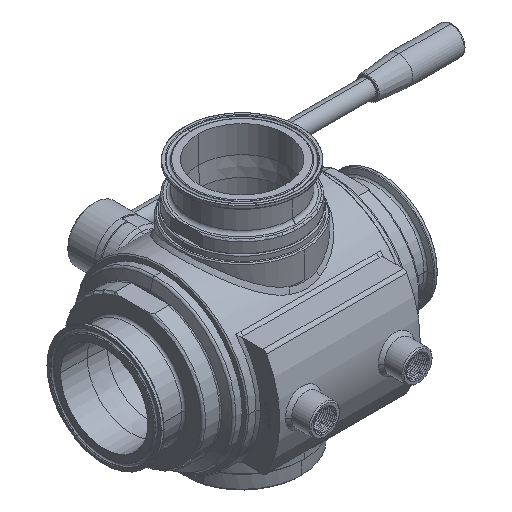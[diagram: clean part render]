
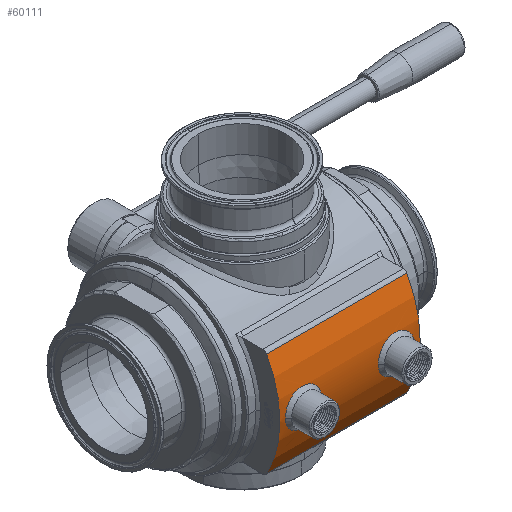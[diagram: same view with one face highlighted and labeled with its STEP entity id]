
A CAD part, isometric view. The second image highlights one B-rep face of the part: STEP entity #60111.
In plain terms, the highlighted cylindrical face has radius 100 mm (diameter 200 mm), a partial arc.
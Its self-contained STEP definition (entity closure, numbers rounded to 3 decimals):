
#18962=DIRECTION('',(1.,0.,0.));
#18963=VECTOR('',#18962,130.);
#18964=CARTESIAN_POINT('',(-65.,-87.772,-47.917));
#18965=LINE('',#18964,#18963);
#19624=DIRECTION('',(-1.,0.,0.));
#19625=VECTOR('',#19624,130.);
#19626=CARTESIAN_POINT('',(65.,-87.772,47.917));
#19627=LINE('',#19626,#19625);
#19638=CARTESIAN_POINT('',(-65.,0.,0.));
#19639=DIRECTION('',(-1.,0.,0.));
#19640=DIRECTION('',(0.,-0.878,-0.479));
#19641=AXIS2_PLACEMENT_3D('',#19638,#19639,#19640);
#19646=CARTESIAN_POINT('',(65.,0.,0.));
#19647=DIRECTION('',(1.,0.,0.));
#19648=DIRECTION('',(0.,-0.878,0.479));
#19649=AXIS2_PLACEMENT_3D('',#19646,#19647,#19648);
#19654=CARTESIAN_POINT('',(-26.17,-100.,
0.));
#19655=CARTESIAN_POINT('',(-26.168,-100.001,
0.895));
#19656=CARTESIAN_POINT('',(-26.325,-99.974,
2.832));
#19657=CARTESIAN_POINT('',(-27.092,-99.847,
5.796));
#19658=CARTESIAN_POINT('',(-28.477,-99.634,
8.699));
#19659=CARTESIAN_POINT('',(-30.369,-99.373,
11.261));
#19660=CARTESIAN_POINT('',(-32.694,-99.103,
13.411));
#19661=CARTESIAN_POINT('',(-35.383,-98.858,
15.089));
#19662=CARTESIAN_POINT('',(-38.329,-98.675,
16.234));
#19663=CARTESIAN_POINT('',(-41.435,-98.576,
16.814));
#19664=CARTESIAN_POINT('',(-44.593,-98.577,
16.811));
#19665=CARTESIAN_POINT('',(-47.699,-98.676,
16.226));
#19666=CARTESIAN_POINT('',(-50.643,-98.86,
15.076));
#19667=CARTESIAN_POINT('',(-53.329,-99.105,
13.393));
#19668=CARTESIAN_POINT('',(-55.65,-99.376,
11.239));
#19669=CARTESIAN_POINT('',(-57.538,-99.636,
8.674));
#19670=CARTESIAN_POINT('',(-58.917,-99.849,
5.769));
#19671=CARTESIAN_POINT('',(-59.677,-99.974,
2.814));
#19672=CARTESIAN_POINT('',(-59.831,-100.001,
0.887));
#19673=CARTESIAN_POINT('',(-59.83,-100.,
0.));
#19678=CARTESIAN_POINT('',(-59.83,-100.,
0.));
#19679=CARTESIAN_POINT('',(-59.832,-100.001,
-0.894));
#19680=CARTESIAN_POINT('',(-59.675,-99.974,
-2.828));
#19681=CARTESIAN_POINT('',(-58.909,-99.848,
-5.791));
#19682=CARTESIAN_POINT('',(-57.525,-99.634,
-8.695));
#19683=CARTESIAN_POINT('',(-55.633,-99.374,
-11.259));
#19684=CARTESIAN_POINT('',(-53.309,-99.103,
-13.409));
#19685=CARTESIAN_POINT('',(-50.62,-98.859,
-15.088));
#19686=CARTESIAN_POINT('',(-47.672,-98.675,
-16.234));
#19687=CARTESIAN_POINT('',(-44.565,-98.576,
-16.814));
#19688=CARTESIAN_POINT('',(-41.406,-98.577,
-16.811));
#19689=CARTESIAN_POINT('',(-38.3,-98.676,
-16.226));
#19690=CARTESIAN_POINT('',(-35.354,-98.861,
-15.075));
#19691=CARTESIAN_POINT('',(-32.668,-99.106,
-13.391));
#19692=CARTESIAN_POINT('',(-30.348,-99.376,
-11.237));
#19693=CARTESIAN_POINT('',(-28.46,-99.636,
-8.671));
#19694=CARTESIAN_POINT('',(-27.081,-99.849,
-5.764));
#19695=CARTESIAN_POINT('',(-26.322,-99.974,
-2.81));
#19696=CARTESIAN_POINT('',(-26.169,-100.001,
-0.885));
#19697=CARTESIAN_POINT('',(-26.17,-100.,
0.));
#19702=CARTESIAN_POINT('',(59.83,-100.,
0.001));
#19703=CARTESIAN_POINT('',(59.832,-100.,
1.069));
#19704=CARTESIAN_POINT('',(59.632,-99.967,
3.192));
#19705=CARTESIAN_POINT('',(58.656,-99.807,
6.477));
#19706=CARTESIAN_POINT('',(57.087,-99.57,
9.395));
#19707=CARTESIAN_POINT('',(55.006,-99.295,
11.933));
#19708=CARTESIAN_POINT('',(52.461,-99.017,
14.026));
#19709=CARTESIAN_POINT('',(49.527,-98.778,
15.601));
#19710=CARTESIAN_POINT('',(46.288,-98.616,
16.582));
#19711=CARTESIAN_POINT('',(42.89,-98.561,
16.903));
#19712=CARTESIAN_POINT('',(39.483,-98.624,
16.536));
#19713=CARTESIAN_POINT('',(36.265,-98.793,
15.512));
#19714=CARTESIAN_POINT('',(33.372,-99.034,
13.91));
#19715=CARTESIAN_POINT('',(30.884,-99.308,
11.818));
#19716=CARTESIAN_POINT('',(28.847,-99.58,
9.291));
#19717=CARTESIAN_POINT('',(27.315,-99.811,
6.4));
#19718=CARTESIAN_POINT('',(26.363,-99.968,
3.151));
#19719=CARTESIAN_POINT('',(26.167,-100.,
1.056));
#19720=CARTESIAN_POINT('',(26.17,-100.,
-0.001));
#19725=CARTESIAN_POINT('',(26.17,-100.,
-0.001));
#19726=CARTESIAN_POINT('',(26.168,-100.,
-1.071));
#19727=CARTESIAN_POINT('',(26.369,-99.967,
-3.196));
#19728=CARTESIAN_POINT('',(27.346,-99.806,
-6.481));
#19729=CARTESIAN_POINT('',(28.916,-99.57,
-9.399));
#19730=CARTESIAN_POINT('',(30.998,-99.294,
-11.937));
#19731=CARTESIAN_POINT('',(33.546,-99.017,
-14.031));
#19732=CARTESIAN_POINT('',(36.482,-98.778,
-15.604));
#19733=CARTESIAN_POINT('',(39.718,-98.616,
-16.582));
#19734=CARTESIAN_POINT('',(43.11,-98.561,
-16.902));
#19735=CARTESIAN_POINT('',(46.511,-98.624,
-16.537));
#19736=CARTESIAN_POINT('',(49.726,-98.792,
-15.516));
#19737=CARTESIAN_POINT('',(52.621,-99.033,
-13.915));
#19738=CARTESIAN_POINT('',(55.112,-99.308,
-11.822));
#19739=CARTESIAN_POINT('',(57.15,-99.579,
-9.295));
#19740=CARTESIAN_POINT('',(58.683,-99.811,
-6.404));
#19741=CARTESIAN_POINT('',(59.636,-99.968,
-3.155));
#19742=CARTESIAN_POINT('',(59.833,-100.,
-1.057));
#19743=CARTESIAN_POINT('',(59.83,-100.,
0.001));
#35517=CARTESIAN_POINT('',(65.,-87.772,-47.917));
#35519=VERTEX_POINT('',#35517);
#35522=CARTESIAN_POINT('',(65.,-87.772,47.917));
#35524=VERTEX_POINT('',#35522);
#35871=CARTESIAN_POINT('',(-65.,-87.772,47.917));
#35873=VERTEX_POINT('',#35871);
#35876=CARTESIAN_POINT('',(-65.,-87.772,-47.917));
#35878=VERTEX_POINT('',#35876);
#36415=VERTEX_POINT('',#19654);
#36416=VERTEX_POINT('',#19673);
#36423=VERTEX_POINT('',#19702);
#36424=VERTEX_POINT('',#19720);
#60088=CARTESIAN_POINT('',(-69.3,0.,0.));
#60089=DIRECTION('',(1.,0.,0.));
#60090=DIRECTION('',(0.,1.,0.));
#60091=AXIS2_PLACEMENT_3D('',#60088,#60089,#60090);
#60092=CYLINDRICAL_SURFACE('',#60091,100.);
#60093=ORIENTED_EDGE('',*,*,#59772,.F.);
#60094=ORIENTED_EDGE('',*,*,#59796,.T.);
#60095=ORIENTED_EDGE('',*,*,#60073,.F.);
#60096=ORIENTED_EDGE('',*,*,#59576,.T.);
#60097=EDGE_LOOP('',(#60093,#60094,#60095,#60096));
#60098=FACE_OUTER_BOUND('',#60097,.F.);
#60100=ORIENTED_EDGE('',*,*,#60099,.T.);
#60102=ORIENTED_EDGE('',*,*,#60101,.T.);
#60103=EDGE_LOOP('',(#60100,#60102));
#60104=FACE_BOUND('',#60103,.F.);
#60106=ORIENTED_EDGE('',*,*,#60105,.T.);
#60108=ORIENTED_EDGE('',*,*,#60107,.T.);
#60109=EDGE_LOOP('',(#60106,#60108));
#60110=FACE_BOUND('',#60109,.F.);
#60111=ADVANCED_FACE('',(#60098,#60104,#60110),#60092,.T.);
#19642=CIRCLE('',#19641,100.);
#19650=CIRCLE('',#19649,100.);
#19674=B_SPLINE_CURVE_WITH_KNOTS('',3,(#19654,#19655,#19656,#19657,#19658,
#19659,#19660,#19661,#19662,#19663,#19664,#19665,#19666,#19667,#19668,#19669,
#19670,#19671,#19672,#19673),.UNSPECIFIED.,.F.,.F.,(4,1,1,1,1,1,1,1,1,1,1,1,1,1,
1,1,1,4),(0.,0.054,0.113,0.173,
0.232,0.292,0.351,0.411,
0.47,0.53,0.59,0.649,
0.709,0.768,0.828,0.887,
0.947,1.),.UNSPECIFIED.);
#19698=B_SPLINE_CURVE_WITH_KNOTS('',3,(#19678,#19679,#19680,#19681,#19682,
#19683,#19684,#19685,#19686,#19687,#19688,#19689,#19690,#19691,#19692,#19693,
#19694,#19695,#19696,#19697),.UNSPECIFIED.,.F.,.F.,(4,1,1,1,1,1,1,1,1,1,1,1,1,1,
1,1,1,4),(0.,0.054,0.113,0.173,
0.232,0.292,0.351,0.411,
0.47,0.53,0.59,0.649,
0.709,0.768,0.828,0.887,
0.947,1.),.UNSPECIFIED.);
#19721=B_SPLINE_CURVE_WITH_KNOTS('',3,(#19702,#19703,#19704,#19705,#19706,
#19707,#19708,#19709,#19710,#19711,#19712,#19713,#19714,#19715,#19716,#19717,
#19718,#19719,#19720),.UNSPECIFIED.,.F.,.F.,(4,1,1,1,1,1,1,1,1,1,1,1,1,1,1,1,4),
(0.,0.063,0.125,0.188,0.25,0.313,0.375,0.438,0.5,0.563,
0.625,0.688,0.75,0.813,0.875,0.938,1.),.UNSPECIFIED.);
#19744=B_SPLINE_CURVE_WITH_KNOTS('',3,(#19725,#19726,#19727,#19728,#19729,
#19730,#19731,#19732,#19733,#19734,#19735,#19736,#19737,#19738,#19739,#19740,
#19741,#19742,#19743),.UNSPECIFIED.,.F.,.F.,(4,1,1,1,1,1,1,1,1,1,1,1,1,1,1,1,4),
(0.,0.063,0.125,0.188,0.25,0.313,0.375,0.438,0.5,0.563,
0.625,0.688,0.75,0.813,0.875,0.938,1.),.UNSPECIFIED.);
#59576=EDGE_CURVE('',#35524,#35519,#19650,.T.);
#59772=EDGE_CURVE('',#35878,#35519,#18965,.T.);
#59796=EDGE_CURVE('',#35878,#35873,#19642,.T.);
#60073=EDGE_CURVE('',#35524,#35873,#19627,.T.);
#60099=EDGE_CURVE('',#36415,#36416,#19674,.T.);
#60101=EDGE_CURVE('',#36416,#36415,#19698,.T.);
#60105=EDGE_CURVE('',#36423,#36424,#19721,.T.);
#60107=EDGE_CURVE('',#36424,#36423,#19744,.T.);
